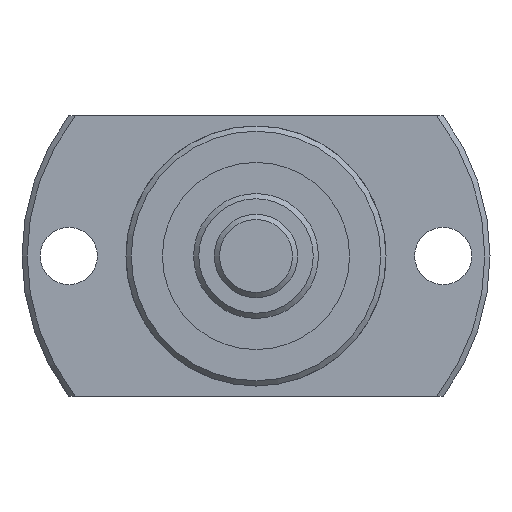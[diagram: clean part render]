
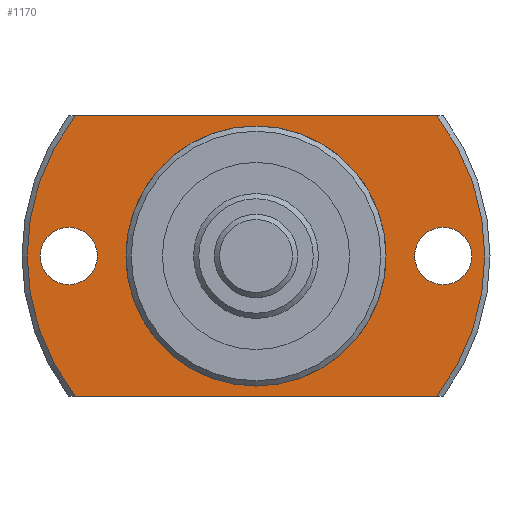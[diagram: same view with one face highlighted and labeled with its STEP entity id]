
A CAD part, left-side view. The second image highlights one B-rep face of the part: STEP entity #1170.
In plain terms, the highlighted planar face has unit normal (-1, 0, 0).
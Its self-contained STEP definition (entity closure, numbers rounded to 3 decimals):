
#121=CIRCLE('',#1303,12.25);
#124=CIRCLE('',#1307,22.);
#130=CIRCLE('',#1318,2.75);
#131=CIRCLE('',#1319,2.75);
#132=CIRCLE('',#1320,22.);
#274=ORIENTED_EDGE('',*,*,#541,.T.);
#275=ORIENTED_EDGE('',*,*,#542,.T.);
#276=ORIENTED_EDGE('',*,*,#530,.F.);
#277=ORIENTED_EDGE('',*,*,#543,.T.);
#278=ORIENTED_EDGE('',*,*,#544,.F.);
#279=ORIENTED_EDGE('',*,*,#545,.T.);
#280=ORIENTED_EDGE('',*,*,#524,.T.);
#524=EDGE_CURVE('',#670,#670,#121,.T.);
#530=EDGE_CURVE('',#675,#676,#124,.T.);
#541=EDGE_CURVE('',#685,#685,#130,.T.);
#542=EDGE_CURVE('',#686,#686,#131,.T.);
#543=EDGE_CURVE('',#675,#687,#760,.T.);
#544=EDGE_CURVE('',#688,#687,#132,.T.);
#545=EDGE_CURVE('',#688,#676,#761,.T.);
#670=VERTEX_POINT('',#1916);
#675=VERTEX_POINT('',#1930);
#676=VERTEX_POINT('',#1932);
#685=VERTEX_POINT('',#1966);
#686=VERTEX_POINT('',#1968);
#687=VERTEX_POINT('',#1970);
#688=VERTEX_POINT('',#1972);
#760=LINE('',#1969,#820);
#761=LINE('',#1973,#821);
#820=VECTOR('',#1583,1000.);
#821=VECTOR('',#1586,1000.);
#914=EDGE_LOOP('',(#274));
#915=EDGE_LOOP('',(#275));
#916=EDGE_LOOP('',(#276,#277,#278,#279));
#917=EDGE_LOOP('',(#280));
#1034=FACE_BOUND('',#914,.T.);
#1035=FACE_BOUND('',#915,.T.);
#1036=FACE_BOUND('',#916,.T.);
#1037=FACE_BOUND('',#917,.T.);
#1111=PLANE('',#1317);
#1170=ADVANCED_FACE('',(#1034,#1035,#1036,#1037),#1111,.F.);
#1303=AXIS2_PLACEMENT_3D('',#1915,#1545,#1546);
#1307=AXIS2_PLACEMENT_3D('',#1931,#1555,#1556);
#1317=AXIS2_PLACEMENT_3D('',#1964,#1577,#1578);
#1318=AXIS2_PLACEMENT_3D('',#1965,#1579,#1580);
#1319=AXIS2_PLACEMENT_3D('',#1967,#1581,#1582);
#1320=AXIS2_PLACEMENT_3D('',#1971,#1584,#1585);
#1545=DIRECTION('',(1.,0.,0.));
#1546=DIRECTION('',(0.,0.,-1.));
#1555=DIRECTION('',(1.,0.,0.));
#1556=DIRECTION('',(0.,0.,-1.));
#1577=DIRECTION('',(1.,0.,0.));
#1578=DIRECTION('',(0.,0.,-1.));
#1579=DIRECTION('',(1.,0.,0.));
#1580=DIRECTION('',(0.,0.,-1.));
#1581=DIRECTION('',(1.,0.,0.));
#1582=DIRECTION('',(0.,0.,-1.));
#1583=DIRECTION('',(0.,-1.,0.));
#1584=DIRECTION('',(1.,0.,0.));
#1585=DIRECTION('',(0.,0.,-1.));
#1586=DIRECTION('',(0.,1.,0.));
#1915=CARTESIAN_POINT('',(19.,0.,0.));
#1916=CARTESIAN_POINT('',(19.,0.,-12.25));
#1930=CARTESIAN_POINT('',(19.,17.371,-13.5));
#1931=CARTESIAN_POINT('',(19.,0.,0.));
#1932=CARTESIAN_POINT('',(19.,17.371,13.5));
#1964=CARTESIAN_POINT('',(19.,12.25,0.));
#1965=CARTESIAN_POINT('',(19.,-18.,0.));
#1966=CARTESIAN_POINT('',(19.,-18.,-2.75));
#1967=CARTESIAN_POINT('',(19.,18.,0.));
#1968=CARTESIAN_POINT('',(19.,18.,-2.75));
#1969=CARTESIAN_POINT('',(19.,12.25,-13.5));
#1970=CARTESIAN_POINT('',(19.,-17.371,-13.5));
#1971=CARTESIAN_POINT('',(19.,0.,0.));
#1972=CARTESIAN_POINT('',(19.,-17.371,13.5));
#1973=CARTESIAN_POINT('',(19.,12.25,13.5));
